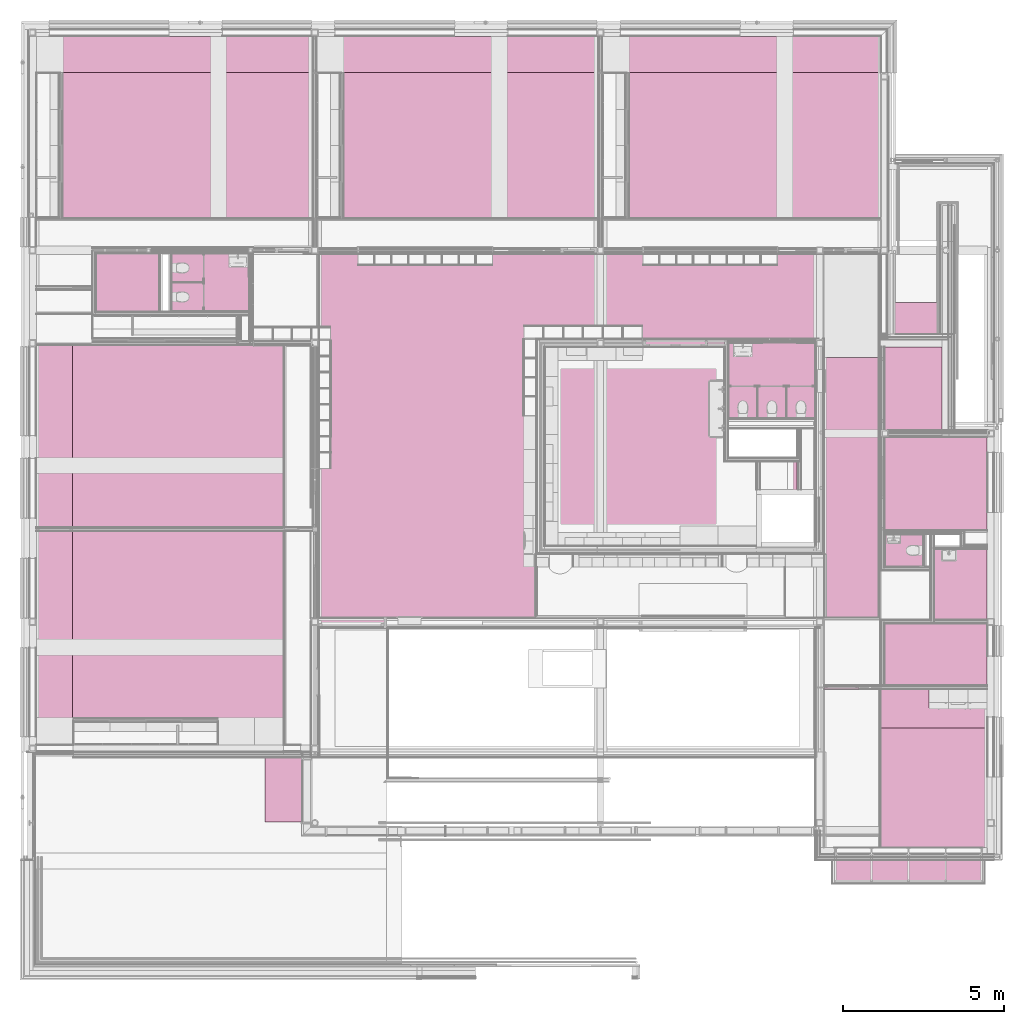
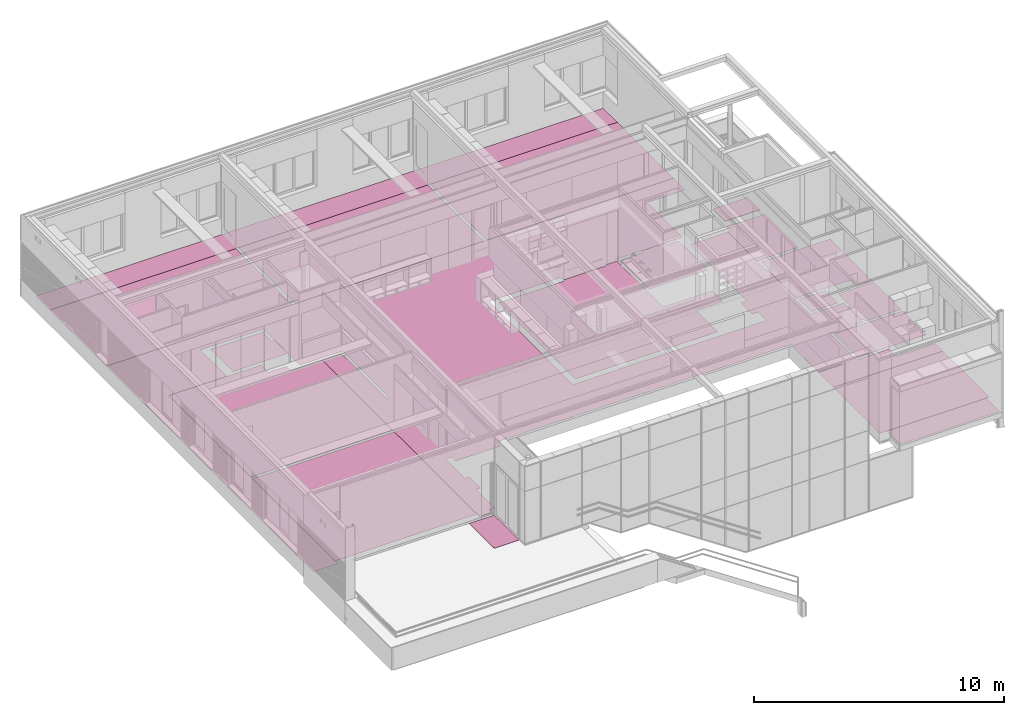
# One storey, part 112 of 137: 20 furnishings.
"""IFC2X3 building model written with IfcOpenShell, lengths in millimetres."""

from ifc_helpers import new_model, entity, si_unit, converted_unit, derived_unit, money_unit, direction, frame, origin_with_axes, place, context, subcontext, project, spatial, open_shell, faceted_brep, surface_model, material, type_object, element, save


model = new_model("IFC2X3")

# Units and contexts
model_context = context("Model", 3, precision=0.01, world=origin_with_axes(), true_north=direction((0.0, 1.0)))
body_context = subcontext(model_context, "Body", "Model", "MODEL_VIEW")
ifc_project = project(units=[si_unit("LENGTHUNIT", "METRE", prefix="MILLI"), si_unit("AREAUNIT", "SQUARE_METRE"), si_unit("VOLUMEUNIT", "CUBIC_METRE"), converted_unit("PLANEANGLEUNIT", "DEGREE", entity("IfcPlaneAngleMeasure", 0.0174532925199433), si_unit("PLANEANGLEUNIT", "RADIAN"), dimensions=[0, 0, 0, 0, 0, 0, 0]), money_unit("EUR"), converted_unit("TIMEUNIT", "Year", entity("IfcTimeMeasure", 31556926.0), si_unit("TIMEUNIT", "SECOND"), dimensions=[0, 0, 1, 0, 0, 0, 0]), si_unit("MASSUNIT", "GRAM", prefix="KILO"), si_unit("THERMODYNAMICTEMPERATUREUNIT", "DEGREE_CELSIUS"), si_unit("LUMINOUSINTENSITYUNIT", "LUMEN"), si_unit("ENERGYUNIT", "JOULE", prefix="MEGA"), derived_unit("THERMALCONDUCTANCEUNIT", [(si_unit("POWERUNIT", "WATT"), 1), (si_unit("LENGTHUNIT", "METRE"), -1), (si_unit("THERMODYNAMICTEMPERATUREUNIT", "KELVIN"), -1)]), derived_unit("SPECIFICHEATCAPACITYUNIT", [(si_unit("ENERGYUNIT", "JOULE"), 1), (si_unit("MASSUNIT", "GRAM", prefix="KILO"), -1), (si_unit("THERMODYNAMICTEMPERATUREUNIT", "KELVIN"), -1)]), derived_unit("MASSDENSITYUNIT", [(si_unit("MASSUNIT", "GRAM", prefix="KILO"), 1), (si_unit("VOLUMEUNIT", "CUBIC_METRE"), -1)])], contexts=[model_context])

# Site, building, storey
site_placement = place(None, origin_with_axes())
site = spatial("IfcSite", under=ifc_project, at=site_placement, Name="Site", CompositionType="ELEMENT")
building_placement = place(site_placement, origin_with_axes())
building = spatial("IfcBuilding", under=site, at=building_placement, Name="Naam gebouw", CompositionType="ELEMENT")
storey_placement = place(building_placement, frame((0.0, 0.0, 3960.0), z_axis=(0.0, 0.0, 1.0), x_axis=(1.0, 0.0, 0.0)))
storey = spatial("IfcBuildingStorey", under=building, at=storey_placement, Name="1e verdieping", CompositionType="ELEMENT", Elevation=3960.0)

# Furnishings
ifc_material_1 = material(Name="48 vloeivloer Bolidt")
furniture_type_1 = type_object("IfcFurnitureType", Name="48 vloeivloer Bolidt 2", AssemblyPlace="NOTDEFINED")
furnishing_1_placement = place(storey_placement, frame((26511.00000000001, 13524.99822965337, 0.0), z_axis=(0.0, 0.0, 1.0), x_axis=(1.0, 0.0, 0.0)))
element("IfcFurnishingElement", 1, at=furnishing_1_placement, inside=storey, type_object=furniture_type_1, material=ifc_material_1, Name="72_46 vloeivloer", ObjectType="SHELF", context=body_context, shape_type="Brep", body=[
    faceted_brep([(0.0, 0.0, 1.99999999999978), (0.0, 0.0, 0.0), (0.0, -1000.006558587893, 0.0), (0.0, -1000.006558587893, 1.99999999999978), (1213.998196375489, -0.006789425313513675, 1.99999999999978), (1213.998196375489, -0.006789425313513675, 0.0), (1213.998149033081, -1000.00575506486, 0.0), (1213.998149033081, -1000.00575506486, 1.99999999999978)], [[[0, 1, 2, 3]], [[4, 5, 1, 0]], [[2, 1, 5, 6]], [[3, 2, 6, 7]], [[4, 0, 3, 7]], [[7, 6, 5, 4]]]),
])
furnishing_2_placement = place(storey_placement, frame((4405.000000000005, 20462.47621406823, 0.0), z_axis=(0.0, 0.0, 1.0), x_axis=(1.0, 0.0, 0.0)))
element("IfcFurnishingElement", 2, at=furnishing_2_placement, inside=storey, type_object=furniture_type_1, material=ifc_material_1, Name="72_43 vloeivloer", ObjectType="SHELF", context=body_context, shape_type="Brep", body=[
    faceted_brep([(0.0, 0.0, 1.99999999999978), (0.0, 0.0, 0.0), (2525.0, 0.0, 0.0), (2525.0, 0.0, 1.99999999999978), (0.0, 1800.000013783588, 1.99999999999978), (0.0, 1800.000013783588, 0.0), (2399.999993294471, 1800.000013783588, 0.0), (2399.999993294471, 1080.000000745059, 0.0), (2525.0, 1080.000000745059, 0.0), (2525.0, 1080.000000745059, 1.99999999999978), (2399.999993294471, 1080.000000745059, 1.99999999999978), (2399.999993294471, 1800.000013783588, 1.99999999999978)], [[[0, 1, 2, 3]], [[4, 5, 1, 0]], [[1, 5, 6, 7, 8, 2]], [[3, 2, 8, 9]], [[4, 0, 3, 9, 10, 11]], [[11, 6, 5, 4]], [[10, 7, 6, 11]], [[9, 8, 7, 10]]]),
])
furnishing_3_placement = place(storey_placement, frame((26386.00000000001, 16660.99778166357, 0.0), z_axis=(0.0, 0.0, 1.0), x_axis=(1.0, 0.0, 0.0)))
element("IfcFurnishingElement", 3, at=furnishing_3_placement, inside=storey, type_object=furniture_type_1, material=ifc_material_1, Name="72_45 vloeivloer", ObjectType="SHELF", context=body_context, shape_type="Brep", body=[
    faceted_brep([(0.0, 0.0, 1.99999999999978), (0.0, 0.0, 0.0), (1900.00002397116, 0.0, 0.0), (1900.00002397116, 0.0, 1.99999999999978), (0.0, 2342.499999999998, 1.99999999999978), (0.0, 2342.499999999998, 0.0), (125.0000120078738, 2342.499999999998, 0.0), (125.0000120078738, 2675.002611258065, 0.0), (1900.00002397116, 2675.002611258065, 0.0), (1900.00002397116, 2675.002611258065, 1.99999999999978), (125.0000120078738, 2675.002611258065, 1.99999999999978), (125.0000120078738, 2342.499999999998, 1.99999999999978)], [[[0, 1, 2, 3]], [[4, 5, 1, 0]], [[1, 5, 6, 7, 8, 2]], [[3, 2, 8, 9]], [[4, 0, 3, 9, 10, 11]], [[11, 6, 5, 4]], [[10, 7, 6, 11]], [[9, 8, 7, 10]]]),
])
furnishing_4_placement = place(storey_placement, frame((24364.99903999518, 17114.99778166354, 0.0), z_axis=(0.0, 0.0, 1.0), x_axis=(1.0, 0.0, 0.0)))
element("IfcFurnishingElement", 4, at=furnishing_4_placement, inside=storey, type_object=furniture_type_1, material=ifc_material_1, Name="72_47 vloeivloer", ObjectType="SHELF", context=body_context, shape_type="Brep", body=[
    faceted_brep([(0.0, 0.0, 1.99999999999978), (0.0, 0.0, 0.0), (0.0, 2345.002029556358, 0.0), (0.0, 2345.002029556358, 1.99999999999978), (-2699.999999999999, 0.0, 1.99999999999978), (-2699.999999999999, 0.0, 0.0), (-2699.999999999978, 2345.002029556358, 0.0), (-1645.007831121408, 2345.002029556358, 0.0), (-1645.007831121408, 2470.002029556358, 0.0), (-565.007831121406, 2470.002029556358, 0.0), (-565.007831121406, 2345.002029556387, 0.0), (-565.007831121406, 2345.002029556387, 1.99999999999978), (-565.007831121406, 2470.002029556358, 1.99999999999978), (-1645.007831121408, 2470.002029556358, 1.99999999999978), (-1645.007831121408, 2345.002029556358, 1.99999999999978), (-2699.999999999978, 2345.002029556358, 1.99999999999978)], [[[0, 1, 2, 3]], [[4, 5, 1, 0]], [[2, 1, 5, 6, 7, 8, 9, 10]], [[3, 2, 10, 11]], [[4, 0, 3, 11, 12, 13, 14, 15]], [[15, 6, 5, 4]], [[14, 7, 6, 15]], [[13, 8, 7, 14]], [[12, 9, 8, 13]], [[11, 10, 9, 12]]]),
])
furnishing_5_placement = place(storey_placement, frame((28049.99764585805, 12104.98510302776, 0.0), z_axis=(0.0, 0.0, 1.0), x_axis=(1.0, 0.0, 0.0)))
element("IfcFurnishingElement", 5, at=furnishing_5_placement, inside=storey, type_object=furniture_type_1, material=ifc_material_1, Name="72_46 vloeivloer", ObjectType="SHELF", context=body_context, shape_type="Brep", body=[
    faceted_brep([(0.0, 0.0, 1.99999999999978), (0.0, 0.0, 0.0), (-125.0000002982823, 0.0, 0.0), (-125.0000002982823, 0.0, 1.99999999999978), (0.0, 970.0126786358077, 1.99999999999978), (0.0, 970.0126786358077, 0.0), (1636.002350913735, 970.0126786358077, 0.0), (1636.002350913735, -1232.484992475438, 0.0), (0.0, -1232.484992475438, 0.0), (0.0, -1080.000014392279, 0.0), (-125.0000002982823, -1080.000014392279, 0.0), (-125.0000002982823, -1080.000014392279, 1.99999999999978), (0.0, -1080.000014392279, 1.99999999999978), (0.0, -1232.484992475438, 1.99999999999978), (1636.002350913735, -1232.484992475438, 1.99999999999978), (1636.002350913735, 970.0126786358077, 1.99999999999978)], [[[0, 1, 2, 3]], [[4, 5, 1, 0]], [[2, 1, 5, 6, 7, 8, 9, 10]], [[3, 2, 10, 11]], [[4, 0, 3, 11, 12, 13, 14, 15]], [[15, 6, 5, 4]], [[14, 7, 6, 15]], [[13, 8, 7, 14]], [[12, 9, 8, 13]], [[11, 10, 9, 12]]]),
])
ifc_material_2 = material(Name="43 Forbo Walton")
furniture_type_2 = type_object("IfcFurnitureType", Name="43 Forbo Walton 2", AssemblyPlace="NOTDEFINED")
furnishing_6_placement = place(storey_placement, frame((1343.999948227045, 13739.99990689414, 0.0), z_axis=(0.0, 0.0, 1.0), x_axis=(1.0, 0.0, 0.0)))
element("IfcFurnishingElement", 6, at=furnishing_6_placement, inside=storey, type_object=furniture_type_2, material=ifc_material_2, Name="72_43 marmoleum", ObjectType="SHELF", context=body_context, shape_type="Brep", body=[
    faceted_brep([(4266.000051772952, 5981.976307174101, 1.99999999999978), (4266.000051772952, 6563.976307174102, 1.99999999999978), (4866.000051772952, 6563.976307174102, 1.99999999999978), (5100.000090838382, 6563.976307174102, 1.99999999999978), (5100.000090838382, 6564.976352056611, 1.99999999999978), (0.0, 6564.976352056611, 1.99999999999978), (0.0, 0.0, 1.99999999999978), (6543.500248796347, 0.0, 1.99999999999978), (6543.500248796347, 5647.499952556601, 1.99999999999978), (5471.000051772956, 5647.499952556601, 1.99999999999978), (5471.000051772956, 5397.499904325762, 1.99999999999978), (5470.000051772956, 5397.499904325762, 1.99999999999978), (5470.000051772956, 5647.499952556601, 1.99999999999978), (5100.000090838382, 5647.499952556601, 1.99999999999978), (5100.000090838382, 5981.976307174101, 1.99999999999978), (4866.000051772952, 5981.976307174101, 1.99999999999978), (4266.000051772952, 5981.976307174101, 0.0), (4266.000051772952, 6563.976307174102, 0.0), (4866.000051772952, 6563.976307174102, 0.0), (5100.000090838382, 6563.976307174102, 0.0), (5100.000090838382, 6564.976352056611, 0.0), (0.0, 6564.976352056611, 0.0), (0.0, 0.0, 0.0), (6543.500248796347, 0.0, 0.0), (6543.500248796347, 5647.499952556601, 0.0), (5471.000051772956, 5647.499952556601, 0.0), (5471.000051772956, 5397.499904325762, 0.0), (5470.000051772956, 5397.499904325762, 0.0), (5470.000051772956, 5647.499952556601, 0.0), (5100.000090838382, 5647.499952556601, 0.0), (5100.000090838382, 5981.976307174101, 0.0), (4866.000051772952, 5981.976307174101, 0.0)], [[[0, 1, 2, 3, 4, 5, 6, 7, 8, 9, 10, 11, 12, 13, 14, 15]], [[1, 0, 16, 17]], [[2, 1, 17, 18, 19, 3]], [[4, 3, 19, 20]], [[20, 21, 5, 4]], [[21, 22, 6, 5]], [[22, 23, 7, 6]], [[23, 24, 8, 7]], [[8, 24, 25, 9]], [[25, 26, 10, 9]], [[26, 27, 11, 10]], [[11, 27, 28, 12]], [[29, 13, 12, 28]], [[29, 30, 14, 13]], [[31, 16, 0, 15, 14, 30]], [[16, 31, 30, 29, 28, 27, 26, 25, 24, 23, 22, 21, 20, 19, 18, 17]]]),
])
furnishing_7_placement = place(storey_placement, frame((214.0000000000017, 23324.99984707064, 0.0), z_axis=(0.0, 0.0, 1.0), x_axis=(1.0, 0.0, 0.0)))
element("IfcFurnishingElement", 7, at=furnishing_7_placement, inside=storey, type_object=furniture_type_2, material=ifc_material_2, Name="72_43 marmoleum", ObjectType="SHELF", context=body_context, shape_type="Brep", body=[
    faceted_brep([(0.0, 0.0, 1.99999999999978), (0.0, 0.0, 0.0), (8573.500000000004, 0.0, 0.0), (8573.500000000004, 0.0, 1.99999999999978), (0.0, 4506.00015292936, 1.99999999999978), (0.0, 4506.00015292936, 0.0), (8573.500000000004, 4506.00015292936, 0.0), (8573.500000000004, 4506.00015292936, 1.99999999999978)], [[[0, 1, 2, 3]], [[4, 5, 1, 0]], [[2, 1, 5, 6]], [[3, 2, 6, 7]], [[4, 0, 3, 7]], [[7, 6, 5, 4]]]),
])
furnishing_8_placement = place(storey_placement, frame((26511.00000000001, 8840.0, 0.0), z_axis=(0.0, 0.0, 1.0), x_axis=(1.0, 0.0, 0.0)))
element("IfcFurnishingElement", 8, at=furnishing_8_placement, inside=storey, type_object=furniture_type_2, material=ifc_material_2, Name="72_43 marmoleum", ObjectType="SHELF", context=body_context, shape_type="Brep", body=[
    faceted_brep([(0.0, 0.0, 1.99999999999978), (0.0, 0.0, 0.0), (3174.999999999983, 0.0, 0.0), (3174.999999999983, 0.0, 1.99999999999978), (0.0, 1907.500110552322, 1.99999999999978), (0.0, 1907.500110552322, 0.0), (3174.999999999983, 1907.500110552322, 0.0), (3174.999999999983, 1907.500110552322, 1.99999999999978)], [[[0, 1, 2, 3]], [[4, 5, 1, 0]], [[2, 1, 5, 6]], [[3, 2, 6, 7]], [[4, 0, 3, 7]], [[7, 6, 5, 4]]]),
])
furnishing_9_placement = place(storey_placement, frame((24634.99903999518, 3813.999952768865, 0.0), z_axis=(0.0, 0.0, 1.0), x_axis=(1.0, 0.0, 0.0)))
element("IfcFurnishingElement", 9, at=furnishing_9_placement, inside=storey, type_object=furniture_type_2, material=ifc_material_2, Name="72_44 marmoleum", ObjectType="SHELF", context=body_context, shape_type="Brep", body=[
    faceted_brep([(0.0, 0.0, 1.99999999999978), (0.0, 0.0, 0.0), (5051.00096496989, 0.0, 0.0), (5051.00096496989, 0.0, 1.99999999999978), (0.0, 3700.999989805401, 1.99999999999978), (0.0, 3700.999989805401, 0.0), (5051.00096496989, 3700.999989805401, 0.0), (5051.00096496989, 3700.999989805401, 1.99999999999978)], [[[0, 1, 2, 3]], [[4, 5, 1, 0]], [[1, 5, 6, 2]], [[3, 2, 6, 7]], [[4, 0, 3, 7]], [[7, 6, 5, 4]]]),
])
furnishing_10_placement = place(storey_placement, frame((26511.00001756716, 15929.99778166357, 0.0), z_axis=(0.0, 0.0, 1.0), x_axis=(1.0, 0.0, 0.0)))
element("IfcFurnishingElement", 10, at=furnishing_10_placement, inside=storey, type_object=furniture_type_2, material=ifc_material_2, Name="72_44 marmoleum", ObjectType="SHELF", context=body_context, shape_type="Brep", body=[
    faceted_brep([(0.0, 0.0, 1.99999999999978), (0.0, 0.0, 0.0), (-62.50001756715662, 0.0, 0.0), (-62.50001756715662, 0.0, 1.99999999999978), (0.0, 605.999979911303, 1.99999999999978), (0.0, 605.999979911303, 0.0), (3174.999989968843, 605.999979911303, 0.0), (3174.999989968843, -2729.781288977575, 0.0), (2475.140585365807, -2729.999960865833, 0.0), (2474.999982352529, -2280.0, 0.0), (-5.186452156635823e-05, -2280.175610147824, 0.0), (0.0, -2279.781284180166, 0.0), (-62.50001756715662, -2279.781284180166, 0.0), (-62.50001756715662, -2279.781284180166, 1.99999999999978), (0.0, -2279.781284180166, 1.99999999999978), (-5.186452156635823e-05, -2280.175610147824, 1.99999999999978), (2474.999982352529, -2280.0, 1.99999999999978), (2475.140585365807, -2729.999960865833, 1.99999999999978), (3174.999989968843, -2729.781288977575, 1.99999999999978), (3174.999989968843, 605.999979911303, 1.99999999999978)], [[[0, 1, 2, 3]], [[4, 5, 1, 0]], [[2, 1, 5, 6, 7, 8, 9, 10, 11, 12]], [[3, 2, 12, 13]], [[4, 0, 3, 13, 14, 15, 16, 17, 18, 19]], [[19, 6, 5, 4]], [[18, 7, 6, 19]], [[17, 8, 7, 18]], [[16, 9, 8, 17]], [[15, 10, 9, 16]], [[14, 11, 10, 15]], [[13, 12, 11, 14]]]),
])
furnishing_11_placement = place(storey_placement, frame((15839.999146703, 18340.00723400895, 0.0), z_axis=(0.0, 0.0, 1.0), x_axis=(1.0, 0.0, 0.0)))
element("IfcFurnishingElement", 11, at=furnishing_11_placement, inside=storey, type_object=furniture_type_2, material=ifc_material_2, Name="72_45 marmoleum", ObjectType="SHELF", context=body_context, shape_type="Brep", body=[
    faceted_brep([(145.0003023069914, -2009.999998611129, 1.99999999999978), (145.0003023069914, -2009.999998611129, 0.0), (145.0002946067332, -5165.009452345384, 0.0), (145.0002946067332, -5165.009452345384, 1.999999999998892), (145.0003023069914, 0.0, 1.99999999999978), (145.0003023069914, 0.0, 0.0), (144.9999517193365, 974.9926247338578, 0.0), (3175.000310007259, 974.9925772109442, 0.0), (3175.000308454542, 1057.492574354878, 0.0), (5185.000310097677, 1057.492577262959, 0.0), (5185.000310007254, 1119.992577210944, 0.0), (5699.99984406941, 1119.992621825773, 0.0), (5699.99984406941, -2565.154448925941, 0.0), (7959.872962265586, -2564.826723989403, 0.0), (7959.999867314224, -3439.830415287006, 0.0), (6724.999893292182, -3440.00953193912, 0.0), (6725.250075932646, -5165.00578893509, 0.0), (6694.999893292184, -5165.009452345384, 0.0), (6694.999893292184, -5165.009452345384, 1.999999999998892), (6725.250075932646, -5165.00578893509, 1.99999999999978), (6724.999893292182, -3440.00953193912, 1.99999999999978), (7959.999867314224, -3439.830415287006, 1.99999999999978), (7959.872962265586, -2564.826723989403, 1.99999999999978), (5699.99984406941, -2565.154448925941, 1.99999999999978), (5699.99984406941, 1119.992621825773, 1.99999999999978), (5185.000310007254, 1119.992577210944, 1.99999999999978), (5185.000310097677, 1057.492577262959, 1.99999999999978), (3175.000308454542, 1057.492574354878, 1.99999999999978), (3175.000310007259, 974.9925772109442, 1.99999999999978), (144.9999517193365, 974.9926247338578, 1.99999999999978)], [[[0, 1, 2, 3]], [[1, 0, 4, 5]], [[2, 1, 5, 6, 7, 8, 9, 10, 11, 12, 13, 14, 15, 16, 17]], [[3, 2, 17, 18]], [[0, 3, 18, 19, 20, 21, 22, 23, 24, 25, 26, 27, 28, 29, 4]], [[4, 29, 6, 5]], [[6, 29, 28, 7]], [[7, 28, 27, 8]], [[8, 27, 26, 9]], [[10, 9, 26, 25]], [[25, 24, 11, 10]], [[23, 12, 11, 24]], [[12, 23, 22, 13]], [[21, 14, 13, 22]], [[20, 15, 14, 21]], [[15, 20, 19, 16]], [[18, 17, 16, 19]]]),
])
furnishing_12_placement = place(storey_placement, frame((1343.999948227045, 6993.999986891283, 0.0), z_axis=(0.0, 0.0, 1.0), x_axis=(1.0, 0.0, 0.0)))
element("IfcFurnishingElement", 12, at=furnishing_12_placement, inside=storey, type_object=furniture_type_2, material=ifc_material_2, Name="72_43 marmoleum", ObjectType="SHELF", context=body_context, shape_type="Brep", body=[
    faceted_brep([(0.0, 0.0, 1.99999999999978), (0.0, 0.0, 0.0), (6543.500245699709, -0.0003693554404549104, 0.0), (6543.500245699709, -0.0003693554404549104, 1.99999999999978), (0.0, 6620.999881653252, 1.99999999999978), (0.0, 6620.999881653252, 0.0), (6543.500245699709, 6620.999881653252, 0.0), (6543.500245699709, 6620.999881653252, 1.99999999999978)], [[[0, 1, 2, 3]], [[4, 5, 1, 0]], [[2, 1, 5, 6]], [[3, 2, 6, 7]], [[4, 0, 3, 7]], [[7, 6, 5, 4]]]),
])
furnishing_13_placement = place(storey_placement, frame((8912.500000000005, 23324.99984707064, 0.0), z_axis=(0.0, 0.0, 1.0), x_axis=(1.0, 0.0, 0.0)))
element("IfcFurnishingElement", 13, at=furnishing_13_placement, inside=storey, type_object=furniture_type_2, material=ifc_material_2, Name="72_43 marmoleum", ObjectType="SHELF", context=body_context, shape_type="Brep", body=[
    faceted_brep([(0.0, 0.0, 1.99999999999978), (0.0, 0.0, 0.0), (8724.999424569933, 0.0, 0.0), (8724.999424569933, 0.0, 1.99999999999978), (0.0, 4506.00015292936, 1.99999999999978), (0.0, 4506.00015292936, 0.0), (8724.999424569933, 4506.00015292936, 0.0), (8724.999424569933, 4506.00015292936, 1.99999999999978)], [[[0, 1, 2, 3]], [[4, 5, 1, 0]], [[2, 1, 5, 6]], [[3, 2, 6, 7]], [[4, 0, 3, 7]], [[7, 6, 5, 4]]]),
])
furnishing_14_placement = place(storey_placement, frame((24634.99903999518, 8715.00003156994, 0.0), z_axis=(0.0, 0.0, 1.0), x_axis=(1.0, 0.0, 0.0)))
element("IfcFurnishingElement", 14, at=furnishing_14_placement, inside=storey, type_object=furniture_type_2, material=ifc_material_2, Name="72_44 marmoleum", ObjectType="SHELF", context=body_context, shape_type="Brep", body=[
    faceted_brep([(0.0, 0.0, 1.99999999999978), (0.0, 0.0, 0.0), (1080.000036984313, 0.0, 0.0), (1080.000036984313, 0.0, 1.99999999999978), (0.0, 62.49996843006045, 1.99999999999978), (0.0, 62.49996843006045, 0.0), (1080.000036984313, 62.49996843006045, 0.0), (1080.000036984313, 62.49996843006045, 1.99999999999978)], [[[0, 1, 2, 3]], [[4, 5, 1, 0]], [[2, 1, 5, 6]], [[3, 2, 6, 7]], [[4, 0, 3, 7]], [[7, 6, 5, 4]]]),
])
furnishing_15_placement = place(storey_placement, frame((26386.00000006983, 27831.0, 0.0), z_axis=(0.0, 0.0, 1.0), x_axis=(1.0, 0.0, 0.0)))
element("IfcFurnishingElement", 15, at=furnishing_15_placement, inside=storey, type_object=furniture_type_2, material=ifc_material_2, Name="72_43 marmoleum", ObjectType="SHELF", context=body_context, shape_type="Brep", body=[
    faceted_brep([(0.0, 0.0, 1.99999999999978), (0.0, 0.0, 0.0), (-8623.500575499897, 0.0, 0.0), (-8623.500575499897, 0.0, 1.99999999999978), (0.0, -4506.00015292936, 1.99999999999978), (0.0, -4506.00015292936, 0.0), (-8623.500575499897, -4506.00015292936, 0.0), (-8623.500575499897, -4506.00015292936, 1.99999999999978)], [[[0, 1, 2, 3]], [[4, 5, 1, 0]], [[2, 1, 5, 6]], [[3, 2, 6, 7]], [[4, 0, 3, 7]], [[7, 6, 5, 4]]]),
])
ifc_material_3 = material(Name="43 Forbo Striato")
furniture_type_3 = type_object("IfcFurnitureType", Name="43 Forbo Striato  2", AssemblyPlace="NOTDEFINED")
furnishing_16_placement = place(storey_placement, frame((214.0000000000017, 6774.999999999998, 0.0), z_axis=(0.0, 0.0, 1.0), x_axis=(1.0, 0.0, 0.0)))
element("IfcFurnishingElement", 16, at=furnishing_16_placement, inside=storey, type_object=furniture_type_3, material=ifc_material_3, Name="72_43 marmoleum", ObjectType="SHELF", context=body_context, shape_type="Brep", body=[
    faceted_brep([(29472.00001122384, 1358.0, 0.0), (29472.00001122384, 1358.0, 1.99999999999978), (29472.00000496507, 740.000000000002, 1.99999999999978), (29472.00000496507, 740.000000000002, 0.0), (28872.00001122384, 1358.0, 1.99999999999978), (28872.00001122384, 1358.0, 0.0), (27671.99999999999, 1358.0, 0.0), (27671.99999999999, 1358.0, 1.99999999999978), (27671.99999999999, 1940.000000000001, 1.99999999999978), (26172.00000007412, 1940.000031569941, 1.99999999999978), (26172.0, 4097.500110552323, 1.99999999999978), (26297.0, 4097.500110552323, 1.99999999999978), (26297.0, 3972.500110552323, 1.99999999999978), (27377.0, 3972.500110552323, 1.99999999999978), (27377.0, 4097.500110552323, 1.99999999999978), (27710.99764555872, 4097.500110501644, 1.99999999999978), (27710.99764560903, 5624.992606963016, 1.99999999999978), (26172.00000013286, 5624.992607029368, 1.99999999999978), (26172.0, 6874.99778166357, 1.99999999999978), (26234.5, 6874.99778166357, 1.99999999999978), (26234.5, 9154.997781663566, 1.99999999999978), (26172.0, 9154.997781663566, 1.99999999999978), (26172.0, 12228.49778166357, 1.99999999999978), (24420.99903999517, 12228.49778166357, 1.99999999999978), (24420.99903999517, 7689.99794853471, 1.99999999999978), (24150.99903999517, 7689.99794853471, 1.99999999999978), (24150.99903999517, 6789.997948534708, 1.99999999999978), (24420.99903999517, 6789.997948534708, 1.99999999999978), (24420.99903999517, 6129.997781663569, 1.99999999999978), (15500.99945671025, 6129.997781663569, 1.99999999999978), (15500.99942963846, 9555.007263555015, 1.99999999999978), (15500.99942963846, 11565.00726355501, 1.99999999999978), (15500.99945671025, 12809.9998112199, 1.99999999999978), (18800.99945671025, 12809.9998112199, 1.99999999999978), (18800.99945671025, 12622.49981127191, 1.99999999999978), (20810.99945672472, 12622.49981127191, 1.99999999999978), (20810.99945672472, 12674.9998112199, 1.99999999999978), (21325.99903999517, 12674.9998112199, 1.99999999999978), (21325.99903999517, 12809.9998112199, 1.99999999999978), (24420.99903999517, 12809.9998112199, 1.99999999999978), (24420.99903999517, 15612.47621406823, 1.99999999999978), (26172.00000179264, 15612.47621406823, 1.99999999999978), (26172.00000006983, 16549.99984707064, 1.99999999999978), (0.0, 16549.99984707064, 1.99999999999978), (0.0, 0.0, 1.99999999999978), (1129.999948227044, 0.0, 1.99999999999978), (1129.999948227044, 13529.97621406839, 1.99999999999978), (3816.000021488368, 13529.97621406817, 1.99999999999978), (3816.000021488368, 15644.97621406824, 1.99999999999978), (6726.0, 15644.97621406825, 1.99999999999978), (6726.0, 12737.4998112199, 1.99999999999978), (8698.500000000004, 12737.4998112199, 1.99999999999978), (8698.500000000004, 8974.999811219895, 1.99999999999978), (8573.500000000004, 8974.999811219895, 1.99999999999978), (8573.500000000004, 12612.4998112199, 1.99999999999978), (7673.500000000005, 12612.4998112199, 1.99999999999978), (7673.500000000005, 4.999650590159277, 1.99999999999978), (8271.000018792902, 4.999659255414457, 1.99999999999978), (8271.000015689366, 218.9996586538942, 1.99999999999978), (8501.002391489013, 218.9996494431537, 1.99999999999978), (8501.002391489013, 1725.000110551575, 1.99999999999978), (8701.002391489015, 1725.000110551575, 1.99999999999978), (8701.002391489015, 2625.000110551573, 1.99999999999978), (8501.002391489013, 2625.000110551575, 1.99999999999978), (8501.002391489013, 4170.000110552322, 1.99999999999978), (8771.002391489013, 4170.000110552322, 1.99999999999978), (8771.002391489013, 3845.000110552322, 1.99999999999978), (10861.04559255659, 3845.000110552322, 1.99999999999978), (10861.04559255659, 4170.000110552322, 1.99999999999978), (24420.99903999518, 4170.000110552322, 1.99999999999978), (24420.99903999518, 740.000000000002, 1.99999999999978), (24420.99903999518, 740.000000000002, 0.0), (24420.99903999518, 4170.000110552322, 0.0), (10861.04559255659, 4170.000110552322, 0.0), (10861.04559255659, 3845.000110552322, 0.0), (8771.002391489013, 3845.000110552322, 0.0), (8771.002391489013, 4170.000110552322, 0.0), (8501.002391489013, 4170.000110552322, 0.0), (8501.002391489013, 2625.000110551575, 0.0), (8701.002391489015, 2625.000110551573, 0.0), (8701.002391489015, 1725.000110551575, 0.0), (8501.002391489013, 1725.000110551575, 0.0), (8501.002391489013, 218.9996494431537, 0.0), (8271.000015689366, 218.9996586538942, 0.0), (8271.000018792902, 4.999659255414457, 0.0), (7673.500000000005, 4.999650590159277, 0.0), (7673.500000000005, 12612.4998112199, 0.0), (8573.500000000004, 12612.4998112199, 0.0), (8573.500000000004, 8974.999811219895, 0.0), (8698.500000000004, 8974.999811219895, 0.0), (8698.500000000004, 12737.4998112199, 0.0), (6726.0, 12737.4998112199, 0.0), (6726.0, 15644.97621406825, 0.0), (3816.000021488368, 15644.97621406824, 0.0), (3816.000021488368, 13529.97621406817, 0.0), (1129.999948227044, 13529.97621406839, 0.0), (1129.999948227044, 0.0, 0.0), (0.0, 0.0, 0.0), (0.0, 16549.99984707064, 0.0), (26172.00000006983, 16549.99984707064, 0.0), (26172.00000179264, 15612.47621406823, 0.0), (24420.99903999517, 15612.47621406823, 0.0), (24420.99903999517, 12809.9998112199, 0.0), (21325.99903999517, 12809.9998112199, 0.0), (21325.99903999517, 12674.9998112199, 0.0), (20810.99945672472, 12674.9998112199, 0.0), (20810.99945672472, 12622.49981127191, 0.0), (18800.99945671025, 12622.49981127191, 0.0), (18800.99945671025, 12809.9998112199, 0.0), (15500.99945671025, 12809.9998112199, 0.0), (15500.99942963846, 11565.00726355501, 0.0), (15500.99942963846, 9555.007263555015, 0.0), (15500.99945671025, 6129.997781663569, 0.0), (24420.99903999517, 6129.997781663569, 0.0), (24420.99903999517, 6789.997948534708, 0.0), (24150.99903999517, 6789.997948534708, 0.0), (24150.99903999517, 7689.99794853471, 0.0), (24420.99903999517, 7689.99794853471, 0.0), (24420.99903999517, 12228.49778166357, 0.0), (26172.0, 12228.49778166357, 0.0), (26172.0, 9154.997781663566, 0.0), (26234.5, 9154.997781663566, 0.0), (26234.5, 6874.99778166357, 0.0), (26172.0, 6874.99778166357, 0.0), (26172.00000013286, 5624.992607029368, 0.0), (27710.99764560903, 5624.992606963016, 0.0), (27710.99764555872, 4097.500110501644, 0.0), (27377.0, 4097.500110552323, 0.0), (27377.0, 3972.500110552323, 0.0), (26297.0, 3972.500110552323, 0.0), (26297.0, 4097.500110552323, 0.0), (26172.0, 4097.500110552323, 0.0), (26172.00000007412, 1940.000031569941, 0.0), (27671.99999999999, 1940.000000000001, 0.0)], [[[0, 1, 2, 3]], [[4, 1, 0, 5, 6, 7]], [[1, 4, 7, 8, 9, 10, 11, 12, 13, 14, 15, 16, 17, 18, 19, 20, 21, 22, 23, 24, 25, 26, 27, 28, 29, 30, 31, 32, 33, 34, 35, 36, 37, 38, 39, 40, 41, 42, 43, 44, 45, 46, 47, 48, 49, 50, 51, 52, 53, 54, 55, 56, 57, 58, 59, 60, 61, 62, 63, 64, 65, 66, 67, 68, 69, 70, 2]], [[3, 2, 70, 71]], [[5, 0, 3, 71, 72, 73, 74, 75, 76, 77, 78, 79, 80, 81, 82, 83, 84, 85, 86, 87, 88, 89, 90, 91, 92, 93, 94, 95, 96, 97, 98, 99, 100, 101, 102, 103, 104, 105, 106, 107, 108, 109, 110, 111, 112, 113, 114, 115, 116, 117, 118, 119, 120, 121, 122, 123, 124, 125, 126, 127, 128, 129, 130, 131, 132, 133, 6]], [[7, 6, 133, 8]], [[132, 9, 8, 133]], [[131, 10, 9, 132]], [[130, 11, 10, 131]], [[129, 12, 11, 130]], [[128, 13, 12, 129]], [[127, 14, 13, 128]], [[126, 15, 14, 127]], [[125, 16, 15, 126]], [[124, 17, 16, 125]], [[123, 18, 17, 124]], [[122, 19, 18, 123]], [[121, 20, 19, 122]], [[120, 21, 20, 121]], [[119, 22, 21, 120]], [[118, 23, 22, 119]], [[117, 24, 23, 118]], [[116, 25, 24, 117]], [[115, 26, 25, 116]], [[114, 27, 26, 115]], [[113, 28, 27, 114]], [[112, 29, 28, 113]], [[112, 111, 30, 29]], [[111, 110, 31, 30]], [[32, 31, 110, 109]], [[108, 33, 32, 109]], [[107, 34, 33, 108]], [[106, 35, 34, 107]], [[105, 36, 35, 106]], [[104, 37, 36, 105]], [[103, 38, 37, 104]], [[102, 39, 38, 103]], [[101, 40, 39, 102]], [[100, 41, 40, 101]], [[99, 42, 41, 100]], [[98, 43, 42, 99]], [[97, 44, 43, 98]], [[96, 45, 44, 97]], [[95, 46, 45, 96]], [[94, 47, 46, 95]], [[93, 48, 47, 94]], [[92, 49, 48, 93]], [[91, 50, 49, 92]], [[90, 51, 50, 91]], [[89, 52, 51, 90]], [[88, 53, 52, 89]], [[87, 54, 53, 88]], [[86, 55, 54, 87]], [[85, 56, 55, 86]], [[84, 57, 56, 85]], [[83, 58, 57, 84]], [[82, 59, 58, 83]], [[81, 60, 59, 82]], [[80, 61, 60, 81]], [[79, 62, 61, 80]], [[78, 63, 62, 79]], [[77, 64, 63, 78]], [[76, 65, 64, 77]], [[75, 66, 65, 76]], [[74, 67, 66, 75]], [[73, 68, 67, 74]], [[72, 69, 68, 73]], [[71, 70, 69, 72]]]),
])
furnishing_17_placement = place(storey_placement, frame((214.0000000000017, 27831.0, 0.0), z_axis=(0.0, 0.0, 1.0), x_axis=(1.0, 0.0, 0.0)))
element("IfcFurnishingElement", 17, at=furnishing_17_placement, inside=storey, type_object=furniture_type_3, material=ifc_material_3, Name="72_43 marmoleum", ObjectType="SHELF", context=body_context, shape_type="Brep", body=[
    faceted_brep([(0.0, 0.0, 1.99999999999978), (0.0, 0.0, 0.0), (26172.00000006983, 0.0, 0.0), (26172.00000006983, 0.0, 1.99999999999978), (0.0, 1130.000000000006, 1.99999999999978), (0.0, 1130.000000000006, 0.0), (26172.00000006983, 1130.000000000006, 0.0), (26172.00000006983, 1130.000000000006, 1.99999999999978)], [[[0, 1, 2, 3]], [[4, 5, 1, 0]], [[2, 1, 5, 6]], [[3, 2, 6, 7]], [[4, 0, 3, 7]], [[7, 6, 5, 4]]]),
])
ifc_material_4 = material(Name="Vloerafwerking - schoonloopzone 1")
furniture_type_4 = type_object("IfcFurnitureType", Name="Vloerafwerking - schoonloopzone 1 25", AssemblyPlace="NOTDEFINED")
furnishing_18_placement = place(storey_placement, frame((28286.00002502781, 20706.00038435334, -10.00000000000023), z_axis=(0.0, 0.0, 1.0), x_axis=(1.0, 0.0, 0.0)))
element("IfcFurnishingElement", 18, at=furnishing_18_placement, inside=storey, type_object=furniture_type_4, material=ifc_material_4, Name="72_43 schoonloop zone 1", ObjectType="SHELF", context=body_context, shape_type="Brep", body=[
    faceted_brep([(0.0, 0.0, 0.0), (0.0, 0.0, -24.99999999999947), (-1614.000024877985, 0.0, -24.99999999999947), (-1614.000024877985, 0.0, 0.0), (0.0, -979.9999914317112, 0.0), (0.0, -979.9999914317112, -24.99999999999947), (-1614.000024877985, -979.9999914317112, -24.99999999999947), (-1614.000024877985, -979.9999914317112, 0.0)], [[[0, 1, 2, 3]], [[4, 5, 1, 0]], [[2, 1, 5, 6]], [[3, 2, 6, 7]], [[4, 0, 3, 7]], [[7, 6, 5, 4]]]),
])
furnishing_19_placement = place(storey_placement, frame((7300.013310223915, 4604.684613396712, -10.00000000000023), z_axis=(0.0, 0.0, 1.0), x_axis=(1.0, 0.0, 0.0)))
element("IfcFurnishingElement", 19, at=furnishing_19_placement, inside=storey, type_object=furniture_type_4, material=ifc_material_4, Name="72_43 schoonloop zone 1", ObjectType="SHELF", context=body_context, shape_type="Brep", body=[
    faceted_brep([(0.0, 0.0, 0.0), (0.0, 0.0, -24.99999999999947), (1148.136707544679, -4.618855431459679e-05, -24.99999999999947), (1148.136707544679, -4.618855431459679e-05, 0.0), (8.043073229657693e-05, 1999.315092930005, 0.0), (8.043073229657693e-05, 1999.315092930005, -24.99999999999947), (1148.136787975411, 1999.315046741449, -24.99999999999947), (1148.136787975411, 1999.315046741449, 0.0)], [[[0, 1, 2, 3]], [[4, 5, 1, 0]], [[2, 1, 5, 6]], [[3, 2, 6, 7]], [[4, 0, 3, 7]], [[7, 6, 5, 4]]]),
])
furniture_type_5 = type_object("IfcFurnitureType", Name="43 Forbo Striato  0", AssemblyPlace="NOTDEFINED")
furnishing_20_placement = place(storey_placement, frame((24949.99903943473, 3813.99994028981, 1.99999999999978), z_axis=(0.0, 0.0, 1.0), x_axis=(1.0, 0.0, 0.0)))
element("IfcFurnishingElement", 20, at=furnishing_20_placement, inside=storey, type_object=furniture_type_5, material=ifc_material_3, Name="72_43 marmoleum", ObjectType="SHELF", context=body_context, shape_type="SurfaceModel", body=[
    surface_model("IfcShellBasedSurfaceModel", [(0.0, 0.0, 0.0), (4600.000752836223, 0.0, 0.0), (4600.000752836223, -1067.999869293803, 0.0), (0.0, -1067.999869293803, 0.0)], [open_shell([[[0, 1, 2, 3]]])]),
])

save(model, "model.ifc")
